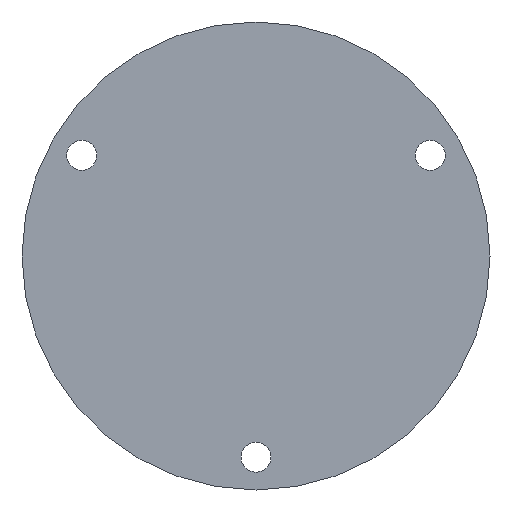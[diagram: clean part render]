
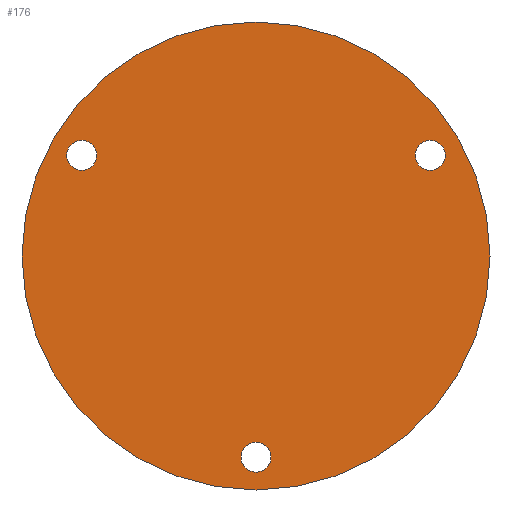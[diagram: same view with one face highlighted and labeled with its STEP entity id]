
A CAD part, front view. The second image highlights one B-rep face of the part: STEP entity #176.
In plain terms, the highlighted planar face has unit normal (0, -1, 0).
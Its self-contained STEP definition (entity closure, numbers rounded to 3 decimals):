
#3 = DIRECTION ( 'NONE',  ( 0., 0., 1. ) ) ;
#7 = DIRECTION ( 'NONE',  ( -0.866, 0., -0.5 ) ) ;
#15 = CARTESIAN_POINT ( 'NONE',  ( 0., 0., -23.1 ) ) ;
#18 = ORIENTED_EDGE ( 'NONE', *, *, #460, .T. ) ;
#19 = CARTESIAN_POINT ( 'NONE',  ( 0., 0., -21.5 ) ) ;
#22 = DIRECTION ( 'NONE',  ( 0., 1., 0. ) ) ;
#24 = EDGE_CURVE ( 'NONE', #377, #298, #367, .T. ) ;
#27 = DIRECTION ( 'NONE',  ( 0., 1., 0. ) ) ;
#42 = VERTEX_POINT ( 'NONE', #677 ) ;
#49 = CIRCLE ( 'NONE', #718, 1.6 ) ;
#50 = CIRCLE ( 'NONE', #168, 25. ) ;
#55 = FACE_OUTER_BOUND ( 'NONE', #543, .T. ) ;
#60 = AXIS2_PLACEMENT_3D ( 'NONE', #166, #339, #679 ) ;
#65 = CARTESIAN_POINT ( 'NONE',  ( 0., 0., 0. ) ) ;
#76 = EDGE_LOOP ( 'NONE', ( #421, #372 ) ) ;
#80 = EDGE_CURVE ( 'NONE', #535, #136, #397, .T. ) ;
#103 = EDGE_LOOP ( 'NONE', ( #493, #365 ) ) ;
#107 = CARTESIAN_POINT ( 'NONE',  ( 18.62, 0., 9.15 ) ) ;
#108 = EDGE_CURVE ( 'NONE', #298, #377, #49, .T. ) ;
#115 = CARTESIAN_POINT ( 'NONE',  ( 0., 0., 0. ) ) ;
#123 = AXIS2_PLACEMENT_3D ( 'NONE', #19, #22, #245 ) ;
#136 = VERTEX_POINT ( 'NONE', #508 ) ;
#141 = CIRCLE ( 'NONE', #123, 1.6 ) ;
#150 = EDGE_CURVE ( 'NONE', #136, #535, #682, .T. ) ;
#160 = CARTESIAN_POINT ( 'NONE',  ( 0., 0., -25. ) ) ;
#166 = CARTESIAN_POINT ( 'NONE',  ( -18.62, 0., 10.75 ) ) ;
#168 = AXIS2_PLACEMENT_3D ( 'NONE', #537, #590, #522 ) ;
#171 = FACE_BOUND ( 'NONE', #103, .T. ) ;
#176 = ADVANCED_FACE ( 'NONE', ( #573, #171, #578, #55 ), #279, .F. ) ;
#179 = DIRECTION ( 'NONE',  ( 0., 1., 0. ) ) ;
#189 = AXIS2_PLACEMENT_3D ( 'NONE', #267, #504, #717 ) ;
#193 = VERTEX_POINT ( 'NONE', #641 ) ;
#231 = DIRECTION ( 'NONE',  ( 0.866, 0., -0.5 ) ) ;
#245 = DIRECTION ( 'NONE',  ( 0., 0., 1. ) ) ;
#253 = DIRECTION ( 'NONE',  ( 0., 0., 1. ) ) ;
#267 = CARTESIAN_POINT ( 'NONE',  ( 18.62, 0., 10.75 ) ) ;
#279 = PLANE ( 'NONE',  #536 ) ;
#290 = DIRECTION ( 'NONE',  ( 0., 1., 0. ) ) ;
#298 = VERTEX_POINT ( 'NONE', #107 ) ;
#303 = EDGE_LOOP ( 'NONE', ( #463, #18 ) ) ;
#308 = AXIS2_PLACEMENT_3D ( 'NONE', #487, #27, #253 ) ;
#338 = CARTESIAN_POINT ( 'NONE',  ( 18.62, 0., 12.35 ) ) ;
#339 = DIRECTION ( 'NONE',  ( 0., 1., 0. ) ) ;
#365 = ORIENTED_EDGE ( 'NONE', *, *, #108, .T. ) ;
#366 = CARTESIAN_POINT ( 'NONE',  ( -18.62, 0., 12.35 ) ) ;
#367 = CIRCLE ( 'NONE', #189, 1.6 ) ;
#372 = ORIENTED_EDGE ( 'NONE', *, *, #150, .T. ) ;
#377 = VERTEX_POINT ( 'NONE', #338 ) ;
#397 = CIRCLE ( 'NONE', #574, 1.6 ) ;
#402 = EDGE_CURVE ( 'NONE', #193, #616, #636, .T. ) ;
#405 = DIRECTION ( 'NONE',  ( 0., 1., 0. ) ) ;
#421 = ORIENTED_EDGE ( 'NONE', *, *, #80, .T. ) ;
#423 = EDGE_CURVE ( 'NONE', #616, #193, #50, .T. ) ;
#424 = DIRECTION ( 'NONE',  ( 0., -1., 0. ) ) ;
#437 = VERTEX_POINT ( 'NONE', #15 ) ;
#460 = EDGE_CURVE ( 'NONE', #437, #42, #141, .T. ) ;
#463 = ORIENTED_EDGE ( 'NONE', *, *, #476, .T. ) ;
#476 = EDGE_CURVE ( 'NONE', #42, #437, #514, .T. ) ;
#487 = CARTESIAN_POINT ( 'NONE',  ( 0., 0., -21.5 ) ) ;
#493 = ORIENTED_EDGE ( 'NONE', *, *, #24, .T. ) ;
#504 = DIRECTION ( 'NONE',  ( 0., 1., 0. ) ) ;
#508 = CARTESIAN_POINT ( 'NONE',  ( -18.62, 0., 9.15 ) ) ;
#514 = CIRCLE ( 'NONE', #308, 1.6 ) ;
#522 = DIRECTION ( 'NONE',  ( 0., 0., -1. ) ) ;
#535 = VERTEX_POINT ( 'NONE', #366 ) ;
#536 = AXIS2_PLACEMENT_3D ( 'NONE', #65, #290, #3 ) ;
#537 = CARTESIAN_POINT ( 'NONE',  ( 0., 0., 0. ) ) ;
#543 = EDGE_LOOP ( 'NONE', ( #596, #562 ) ) ;
#562 = ORIENTED_EDGE ( 'NONE', *, *, #402, .T. ) ;
#573 = FACE_BOUND ( 'NONE', #76, .T. ) ;
#574 = AXIS2_PLACEMENT_3D ( 'NONE', #629, #405, #231 ) ;
#578 = FACE_BOUND ( 'NONE', #303, .T. ) ;
#580 = CARTESIAN_POINT ( 'NONE',  ( 18.62, 0., 10.75 ) ) ;
#590 = DIRECTION ( 'NONE',  ( 0., -1., 0. ) ) ;
#595 = DIRECTION ( 'NONE',  ( 0., 0., -1. ) ) ;
#596 = ORIENTED_EDGE ( 'NONE', *, *, #423, .T. ) ;
#616 = VERTEX_POINT ( 'NONE', #160 ) ;
#629 = CARTESIAN_POINT ( 'NONE',  ( -18.62, 0., 10.75 ) ) ;
#636 = CIRCLE ( 'NONE', #672, 25. ) ;
#641 = CARTESIAN_POINT ( 'NONE',  ( 0., 0., 25. ) ) ;
#672 = AXIS2_PLACEMENT_3D ( 'NONE', #115, #424, #595 ) ;
#677 = CARTESIAN_POINT ( 'NONE',  ( 0., 0., -19.9 ) ) ;
#679 = DIRECTION ( 'NONE',  ( 0.866, 0., -0.5 ) ) ;
#682 = CIRCLE ( 'NONE', #60, 1.6 ) ;
#717 = DIRECTION ( 'NONE',  ( -0.866, 0., -0.5 ) ) ;
#718 = AXIS2_PLACEMENT_3D ( 'NONE', #580, #179, #7 ) ;
